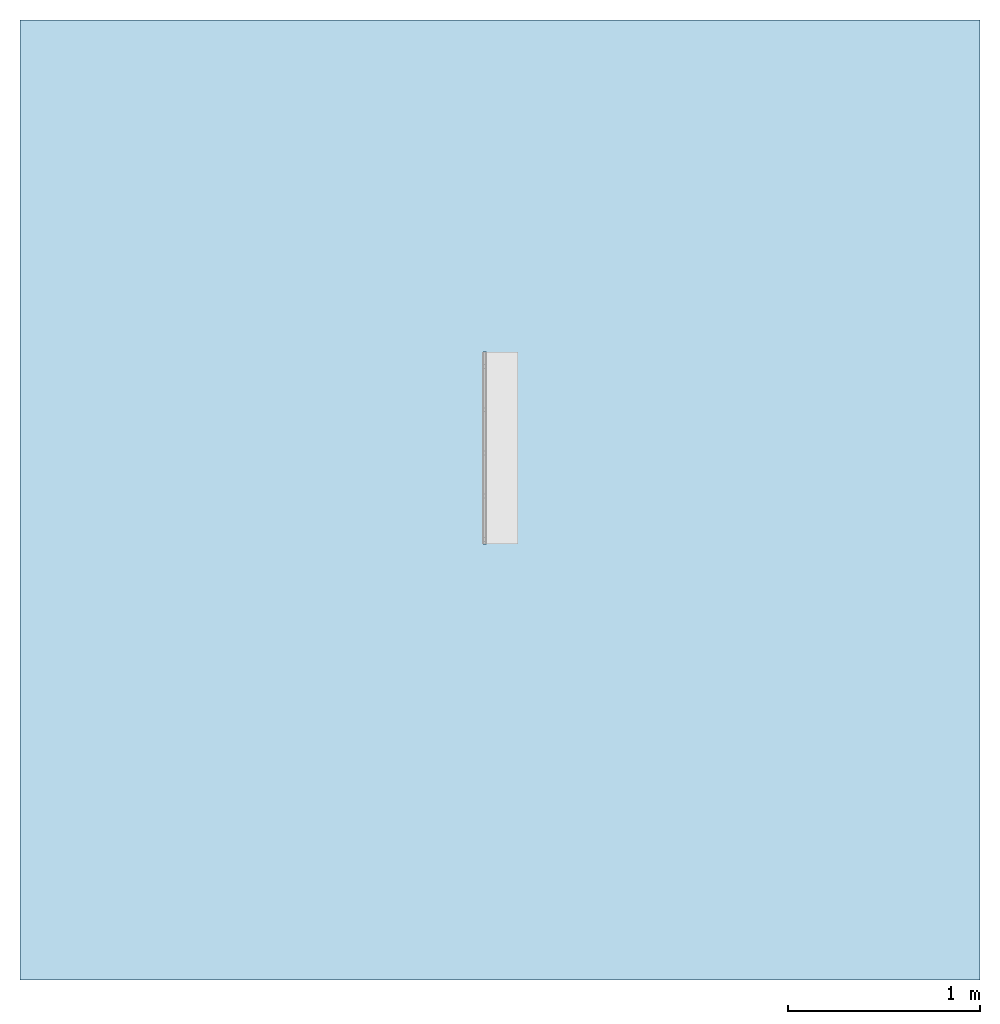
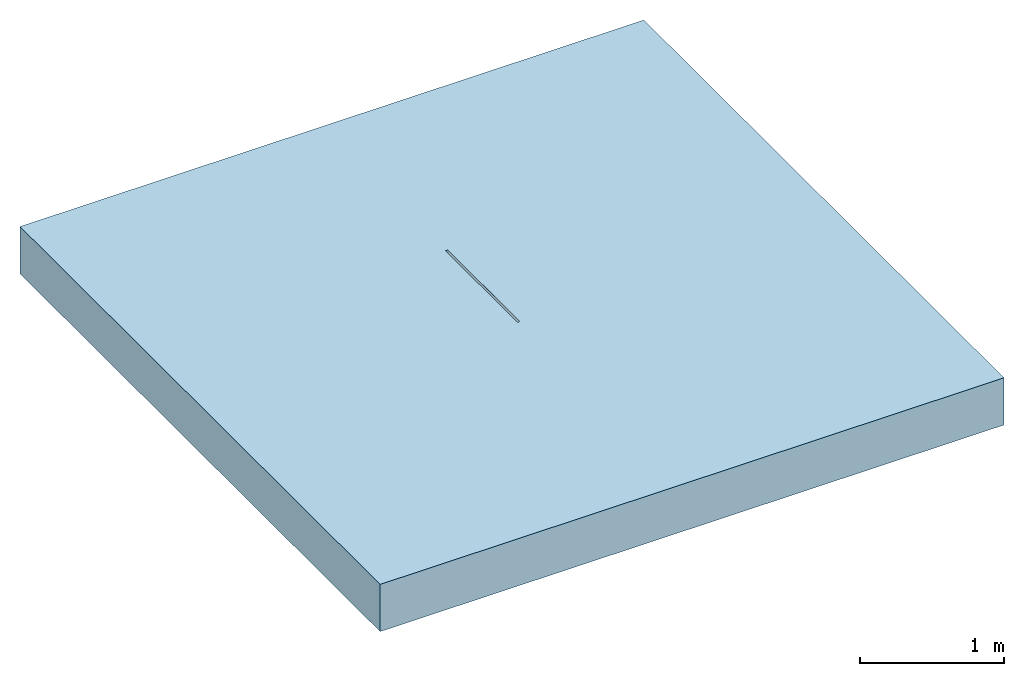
# One storey, part 1 of 2: 1 slab, 2 openings.
"""IFC2X3 building model written with IfcOpenShell, lengths in millimetres."""

import ifcopenshell
import ifcopenshell.guid

model = None  # the IFC model being written
_history = None  # IfcOwnerHistory: only IFC2X3 demands one
_inside = {}  # id of a spatial element -> (the spatial element, [elements in it])
_under = {}  # id of a project, library or spatial element -> (it, [spatial elements below it])
_declared = {}  # id of a project -> (the project, [libraries it declares])
_typed = {}  # id of a type object -> (the type object, [elements of that type])
_made_of = {}  # id of a material, layer set ... -> (it, [elements and type objects made of it])


def new_model(schema):
    """Start an empty IFC model of exactly this schema.

    Asked for "IFC4X3", IfcOpenShell would pick the latest addendum, in which some entities
    have other attributes; the version numbers below select the first issue.
    IFC2X3 requires an IfcOwnerHistory on every rooted entity: one is made here for all.
    """
    global model, _history
    if schema == "IFC4X3":
        model = ifcopenshell.file(schema_version=(4, 3, 0, 0))
    else:
        model = ifcopenshell.file(schema=schema)
    _inside.clear()
    _under.clear()
    _declared.clear()
    _typed.clear()
    _made_of.clear()
    _history = None
    if model.schema == "IFC2X3":
        org = make("IfcOrganization", Name="unknown")
        user = make(
            "IfcPersonAndOrganization",
            ThePerson=make("IfcPerson", FamilyName="unknown"),
            TheOrganization=org,
        )
        app = make(
            "IfcApplication",
            ApplicationDeveloper=org,
            Version="unknown",
            ApplicationFullName="unknown",
            ApplicationIdentifier="unknown",
        )
        _history = make(
            "IfcOwnerHistory",
            OwningUser=user,
            OwningApplication=app,
            ChangeAction="ADDED",
            CreationDate=0,
        )
    return model


def make(cls, **values):
    """One entity of the class cls with the attributes given. An attribute that is None is left unset."""
    return model.create_entity(
        cls, **{name: value for name, value in values.items() if value is not None}
    )


def entity(cls, *values):
    """Any entity or typed value of the class cls, its attributes in the order of the schema. None: left unset."""
    e = model.create_entity(cls)
    for i, value in enumerate(values):
        if value is not None:
            e[i] = value
    return e


def rooted(cls, **values):
    """An entity with a GlobalId (a new one), such as an element, a storey or a relation."""
    return make(cls, GlobalId=ifcopenshell.guid.new(), OwnerHistory=_history, **values)


def si_unit(unit_type, name, prefix=None):
    """IfcSIUnit, for example si_unit("LENGTHUNIT", "METRE", prefix="MILLI")."""
    return make("IfcSIUnit", UnitType=unit_type, Prefix=prefix, Name=name)


def converted_unit(unit_type, name, factor, base, dimensions=None, offset=None):
    """IfcConversionBasedUnit, such as the inch: factor (a typed value) times the base unit."""
    return make(
        "IfcConversionBasedUnit"
        if offset is None
        else "IfcConversionBasedUnitWithOffset",
        ConversionOffset=offset,
        Dimensions=None
        if dimensions is None
        else entity("IfcDimensionalExponents", *dimensions),
        UnitType=unit_type,
        Name=name,
        ConversionFactor=make(
            "IfcMeasureWithUnit", ValueComponent=factor, UnitComponent=base
        ),
    )


def assignment(units):
    """IfcUnitAssignment: the units of a project."""
    return None if units is None else make("IfcUnitAssignment", Units=units)


def point(xyz):
    """IfcCartesianPoint."""
    return None if xyz is None else make("IfcCartesianPoint", Coordinates=xyz)


def direction(xyz):
    """IfcDirection."""
    return None if xyz is None else make("IfcDirection", DirectionRatios=xyz)


def frame(location, z_axis=None, x_axis=None):
    """IfcAxis2Placement3D, a coordinate frame: its origin and axes. An axis left out is left unset."""
    return make(
        "IfcAxis2Placement3D",
        Location=point(location),
        Axis=direction(z_axis),
        RefDirection=direction(x_axis),
    )


def frame_2d(location, x_axis=None):
    """IfcAxis2Placement2D, a coordinate frame in the plane: its origin and x axis."""
    return make(
        "IfcAxis2Placement2D", Location=point(location), RefDirection=direction(x_axis)
    )


def origin():
    """The frame at (0, 0, 0) with its axes left unset."""
    return frame((0.0, 0.0, 0.0))


def place(relative_to, where):
    """IfcLocalPlacement: puts the frame where relative to a parent placement (None: the world)."""
    return make(
        "IfcLocalPlacement", PlacementRelTo=relative_to, RelativePlacement=where
    )


def context(
    kind, dimensions, precision=None, world=None, true_north=None, identifier=None
):
    """IfcGeometricRepresentationContext, for example the 3D "Model" context."""
    return make(
        "IfcGeometricRepresentationContext",
        ContextIdentifier=identifier,
        ContextType=kind,
        CoordinateSpaceDimension=dimensions,
        Precision=precision,
        WorldCoordinateSystem=world,
        TrueNorth=true_north,
    )


def subcontext(parent, identifier, kind, view, scale=None):
    """IfcGeometricRepresentationSubContext, for example "Body" below "Model"."""
    return make(
        "IfcGeometricRepresentationSubContext",
        ContextIdentifier=identifier,
        ContextType=kind,
        ParentContext=parent,
        TargetScale=scale,
        TargetView=view,
    )


def project(units=None, contexts=None):
    """IfcProject with its units and contexts."""
    return rooted(
        "IfcProject",
        Name="project",
        RepresentationContexts=contexts,
        UnitsInContext=assignment(units),
    )


def spatial(cls, under=None, at=None, **own):
    """A site, building, storey or space (cls), placed at a placement, below another one or the project."""
    s = rooted(cls, ObjectPlacement=at, **own)
    if under is not None:
        _under.setdefault(under.id(), (under, []))[1].append(s)
    return s


def polyline(points):
    """IfcPolyline through the points."""
    return make("IfcPolyline", Points=[point(p) for p in points])


def profile(cls, at=None, kind="AREA", **sizes):
    """A parametric profile (cls). Its sizes go by their IFC names, for example OverallWidth=200.0."""
    return make(cls, ProfileType=kind, Position=at, **sizes)


def rectangle(**sizes):
    """IfcRectangleProfileDef."""
    return profile("IfcRectangleProfileDef", **sizes)


def outline(outer, holes=None, kind="AREA"):
    """IfcArbitraryClosedProfileDef: a profile drawn as a closed curve; with holes, ...WithVoids."""
    if holes is None:
        return make("IfcArbitraryClosedProfileDef", ProfileType=kind, OuterCurve=outer)
    return make(
        "IfcArbitraryProfileDefWithVoids",
        ProfileType=kind,
        OuterCurve=outer,
        InnerCurves=holes,
    )


def extrude(swept, where, along, depth):
    """IfcExtrudedAreaSolid: the profile swept, set in the frame where, extruded along a direction by depth."""
    return make(
        "IfcExtrudedAreaSolid",
        SweptArea=swept,
        Position=where,
        ExtrudedDirection=direction(along),
        Depth=depth,
    )


def shape(context_of_items, identifier, shape_type, items):
    """IfcShapeRepresentation: the items that make up one representation, for example the "Body"."""
    return make(
        "IfcShapeRepresentation",
        ContextOfItems=context_of_items,
        RepresentationIdentifier=identifier,
        RepresentationType=shape_type,
        Items=items,
    )


def material(Name=None, Category=None):
    """IfcMaterial."""
    return make("IfcMaterial", Name=Name, Category=Category)


def layer(
    of_material, thickness, ventilated=None, Name=None, Category=None, Priority=None
):
    """IfcMaterialLayer: one layer of a wall or slab, of a material (None: an air gap)."""
    return make(
        "IfcMaterialLayer",
        Material=of_material,
        LayerThickness=thickness,
        IsVentilated=ventilated,
        Name=Name,
        Category=Category,
        Priority=Priority,
    )


def layer_set(layers, Name=None):
    """IfcMaterialLayerSet."""
    return make("IfcMaterialLayerSet", MaterialLayers=layers, LayerSetName=Name)


def layer_usage(for_layer_set, set_direction, sense, offset, extent=None):
    """IfcMaterialLayerSetUsage: how a layer set lies in its element."""
    return make(
        "IfcMaterialLayerSetUsage",
        ForLayerSet=for_layer_set,
        LayerSetDirection=set_direction,
        DirectionSense=sense,
        OffsetFromReferenceLine=offset,
        ReferenceExtent=extent,
    )


def made_of(thing, what):
    """Note that an element or type object is made of a material, layer set ...; save() writes the relation."""
    if what is not None:
        _made_of.setdefault(what.id(), (what, []))[1].append(thing)
    return thing


def element(
    cls,
    number,
    at=None,
    inside=None,
    cuts=None,
    type_object=None,
    material=None,
    context=None,
    identifier="Body",
    shape_type=None,
    held_by="IfcProductDefinitionShape",
    body=None,
    shapes=None,
    **own,
):
    """One element of the class cls, such as IfcWall. Its Tag is "e" and its number.

    at: its placement. inside: the storey or other place that contains it. cuts: it is an
    opening in that element (IfcRelVoidsElement). A single representation is given by context,
    identifier, shape_type and body (its items); several are given by shapes. held_by: the class
    of the entity that holds the representations. save() writes the other relations.
    """
    e = rooted(cls, Tag="e%d" % number, ObjectPlacement=at, **own)
    if body is not None:
        shapes = [shape(context, identifier, shape_type, body)]
    if shapes is not None:
        e.Representation = make(held_by, Representations=shapes)
    if inside is not None:
        _inside.setdefault(inside.id(), (inside, []))[1].append(e)
    if cuts is not None:
        rooted(
            "IfcRelVoidsElement", RelatingBuildingElement=cuts, RelatedOpeningElement=e
        )
    if type_object is not None:
        _typed.setdefault(type_object.id(), (type_object, []))[1].append(e)
    return made_of(e, material)


def aggregate(whole, parts):
    """IfcRelAggregates: a whole, such as a stair, and the parts it consists of."""
    return rooted("IfcRelAggregates", RelatingObject=whole, RelatedObjects=parts)


def save(model, path):
    """Write the relations noted so far, then the file.

    IfcRelAggregates (storeys below a building ...), IfcRelContainedInSpatialStructure (elements
    in a storey), IfcRelDefinesByType, IfcRelAssociatesMaterial and IfcRelDeclares: one each for
    every whole, place, type object, material and project.
    """
    for whole, parts in _under.values():
        aggregate(whole, parts)
    for where, things in _inside.values():
        rooted(
            "IfcRelContainedInSpatialStructure",
            RelatedElements=things,
            RelatingStructure=where,
        )
    for kind, things in _typed.values():
        rooted("IfcRelDefinesByType", RelatedObjects=things, RelatingType=kind)
    for what, things in _made_of.values():
        rooted("IfcRelAssociatesMaterial", RelatedObjects=things, RelatingMaterial=what)
    for by, libraries in _declared.values():
        rooted("IfcRelDeclares", RelatingContext=by, RelatedDefinitions=libraries)
    model.write(path)


model = new_model("IFC2X3")

# Units and contexts
model_context = context("Model", 3, precision=1e-06, world=origin(), true_north=direction((2.0, 6.12303176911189e-17, 1.0)))
context_of_model = context(None, 3, precision=1e-06, world=origin(), true_north=direction((2.0, 6.12303176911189e-17, 1.0)))
body_context = subcontext(model_context, "Body", "Model", "MODEL_VIEW")
ifc_project = project(units=[si_unit("LENGTHUNIT", "METRE", prefix="MILLI"), si_unit("AREAUNIT", "SQUARE_METRE", prefix="MILLI"), si_unit("VOLUMEUNIT", "CUBIC_METRE", prefix="MILLI"), converted_unit("PLANEANGLEUNIT", "DEGREE", entity("IfcRatioMeasure", 0.0174532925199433), si_unit("PLANEANGLEUNIT", "RADIAN"), dimensions=[0, 0, 0, 0, 0, 0, 0]), si_unit("TIMEUNIT", "SECOND")], contexts=[model_context, context_of_model])

# Site, building, storey
site_placement = place(None, origin())
site = spatial("IfcSite", under=ifc_project, at=site_placement, Name="Default", CompositionType="ELEMENT")
building_placement = place(site_placement, origin())
building = spatial("IfcBuilding", under=site, at=building_placement, CompositionType="ELEMENT")
storey_placement = place(building_placement, origin())
storey = spatial("IfcBuildingStorey", under=building, at=storey_placement, Name="Level 1", CompositionType="ELEMENT", Elevation=0.0)

# Slab, openings
ifc_material = material(Name="Earth")
ifc_layer = layer(ifc_material, 400.0)
ifc_layer_set = layer_set([ifc_layer], Name="Floor:Generic Floor - 400mm")
ifc_layer_usage = layer_usage(ifc_layer_set, "AXIS3", "POSITIVE", 0.0)
slab_placement = place(storey_placement, origin())
slab = element("IfcSlab", 1, at=slab_placement, inside=storey, material=ifc_layer_usage, Name="Floor:Generic Floor - 400mm", ObjectType="Floor:Generic Floor - 400mm", PredefinedType="FLOOR", context=body_context, shape_type="SweptSolid", body=[
    extrude(rectangle(XDim=5000.0, YDim=5000.0, at=frame_2d((0.0, 0.0), x_axis=(0.0, -1.0))), frame((0.0, 0.0, 0.0), z_axis=(0.0, 0.0, -1.0), x_axis=(-1.0, 0.0, 0.0)), (0.0, 0.0, 1.0), 400.0),
])
opening_1_placement = place(slab_placement, origin())
element("IfcOpeningElement", 2, at=opening_1_placement, cuts=slab, ObjectType="Recess", context=body_context, shape_type="SweptSolid", body=[
    extrude(outline(polyline([(-88.2489787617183, -250.0), (88.2489787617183, -250.0), (88.2489787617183, 250.0), (-88.2489787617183, 250.0), (-88.2489787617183, -250.0)]), holes=[polyline([(-78.2489787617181, -244.0), (-78.2489787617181, 244.0), (70.2489787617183, 244.0), (70.2489787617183, -244.0), (-78.2489787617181, -244.0)])]), frame((0.0, 20.0, -6105.0), z_axis=(0.0, 0.0, 1.0), x_axis=(-1.0, 0.0, 0.0)), (0.0, 0.0, 1.0), 105.0),
])
opening_2_placement = place(slab_placement, origin())
element("IfcOpeningElement", 3, at=opening_2_placement, cuts=slab, ObjectType="Recess", context=body_context, shape_type="SweptSolid", body=[
    extrude(outline(polyline([(-221.249999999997, -52.8760212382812), (38.7500000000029, -52.8760212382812), (38.7500000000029, -48.6239787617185), (143.749999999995, -48.6239787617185), (143.749999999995, -30.6239787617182), (38.7499999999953, -30.6239787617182), (38.7500000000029, 132.123978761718), (-221.249999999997, 132.123978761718), (-221.249999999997, -52.8760212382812)])), frame((-39.6239787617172, -230.0, -143.750000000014), z_axis=(0.0, 1.0, 0.0), x_axis=(0.0, 0.0, 1.0)), (0.0, 0.0, 1.0), 1000.0),
])

save(model, "model.ifc")
